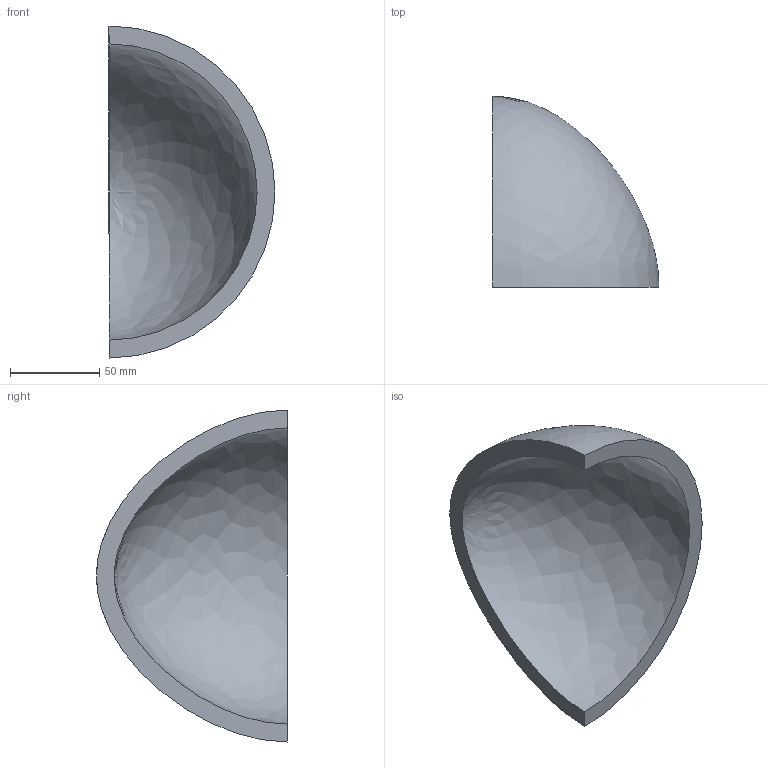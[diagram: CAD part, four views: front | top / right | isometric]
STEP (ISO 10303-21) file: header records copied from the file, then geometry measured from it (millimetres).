
FILE_DESCRIPTION(('CATIA V5 STEP Exchange'),'2;1');
FILE_NAME('C:\_Andres\UNIVERSIDAD\IQS\ASIGNATURAS\DAO\EXF\EXF-16172c\2inicio\Carreras_Buscato_Ej10_v7.stp','2017-03-05T22:31:09+00:00',('none'),('none'),'CATIA Version 5-6 Release 2014 SP1 HF18','CATIA V5 STEP AP203','none');
FILE_SCHEMA(('CONFIG_CONTROL_DESIGN'));
Length unit declared in the file: millimetre
Products named in the file (1): Carreras_Buscato_Ej10_v7
Bounding box: 93 x 107 x 186 mm (x, y, z)
Volume: 256850 mm3; surface area: 57166.2 mm2
Topology: 1 solids, 1 shells, 4 faces, 10 edges, 6 vertices
Faces by surface type: revolution 2, plane 2
Entity records: 239 total; most frequent: CARTESIAN_POINT 117, ORIENTED_EDGE 16, DIRECTION 10, EDGE_CURVE 8, B_SPLINE_CURVE_WITH_KNOTS 6, VERTEX_POINT 6, AXIS2_PLACEMENT_3D 5, ADVANCED_FACE 4
